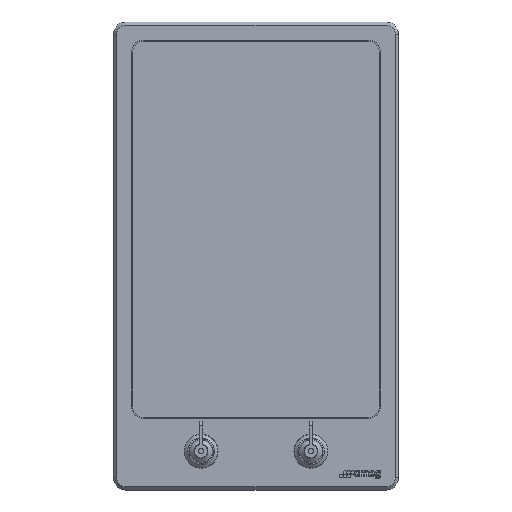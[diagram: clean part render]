
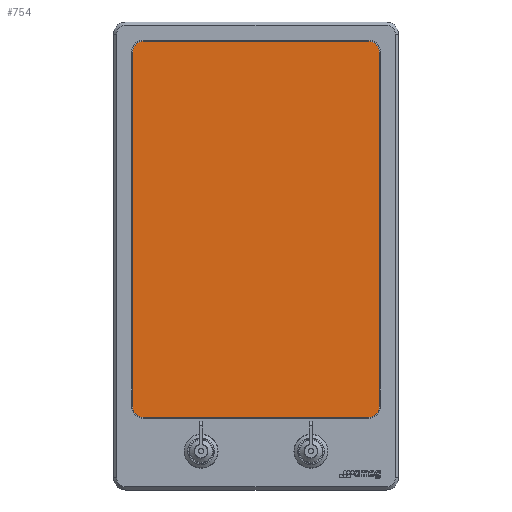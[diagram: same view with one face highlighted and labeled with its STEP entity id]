
A CAD part, top view. The second image highlights one B-rep face of the part: STEP entity #754.
In plain terms, the highlighted planar face has unit normal (0, 0, 1).
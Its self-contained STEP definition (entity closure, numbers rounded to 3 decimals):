
#516=FACE_OUTER_BOUND('',#1308,.T.);
#754=ADVANCED_FACE('',(#516),#883,.T.);
#883=PLANE('',#4309);
#1308=EDGE_LOOP('',(#2467,#2468,#2469,#2470,#2471,#2472,#2473,#2474));
#1479=CIRCLE('',#4293,12.);
#1481=CIRCLE('',#4297,12.);
#1483=CIRCLE('',#4301,12.);
#1485=CIRCLE('',#4305,12.);
#2467=ORIENTED_EDGE('',*,*,#3291,.T.);
#2468=ORIENTED_EDGE('',*,*,#3295,.T.);
#2469=ORIENTED_EDGE('',*,*,#3298,.T.);
#2470=ORIENTED_EDGE('',*,*,#3301,.T.);
#2471=ORIENTED_EDGE('',*,*,#3304,.T.);
#2472=ORIENTED_EDGE('',*,*,#3307,.T.);
#2473=ORIENTED_EDGE('',*,*,#3310,.T.);
#2474=ORIENTED_EDGE('',*,*,#3313,.T.);
#2805=VERTEX_POINT('',#6815);
#2806=VERTEX_POINT('',#6816);
#2809=VERTEX_POINT('',#6824);
#2811=VERTEX_POINT('',#6830);
#2813=VERTEX_POINT('',#6836);
#2815=VERTEX_POINT('',#6842);
#2817=VERTEX_POINT('',#6848);
#2819=VERTEX_POINT('',#6854);
#3291=EDGE_CURVE('',#2805,#2806,#3588,.T.);
#3295=EDGE_CURVE('',#2806,#2809,#1479,.T.);
#3298=EDGE_CURVE('',#2809,#2811,#3593,.T.);
#3301=EDGE_CURVE('',#2811,#2813,#1481,.T.);
#3304=EDGE_CURVE('',#2813,#2815,#3597,.T.);
#3307=EDGE_CURVE('',#2815,#2817,#1483,.T.);
#3310=EDGE_CURVE('',#2817,#2819,#3601,.T.);
#3313=EDGE_CURVE('',#2819,#2805,#1485,.T.);
#3588=LINE('',#6814,#3888);
#3593=LINE('',#6829,#3893);
#3597=LINE('',#6841,#3897);
#3601=LINE('',#6853,#3901);
#3888=VECTOR('',#5370,1.);
#3893=VECTOR('',#5383,1.);
#3897=VECTOR('',#5395,1.);
#3901=VECTOR('',#5407,1.);
#4293=AXIS2_PLACEMENT_3D('',#6823,#5376,#5377);
#4297=AXIS2_PLACEMENT_3D('',#6835,#5388,#5389);
#4301=AXIS2_PLACEMENT_3D('',#6847,#5400,#5401);
#4305=AXIS2_PLACEMENT_3D('',#6859,#5412,#5413);
#4309=AXIS2_PLACEMENT_3D('',#6863,#5420,#5421);
#5370=DIRECTION('',(1.,0.,0.));
#5376=DIRECTION('',(0.,0.,1.));
#5377=DIRECTION('',(1.,0.,0.));
#5383=DIRECTION('',(0.,1.,0.));
#5388=DIRECTION('',(0.,0.,1.));
#5389=DIRECTION('',(1.,0.,0.));
#5395=DIRECTION('',(-1.,0.,0.));
#5400=DIRECTION('',(0.,0.,1.));
#5401=DIRECTION('',(1.,0.,0.));
#5407=DIRECTION('',(0.,-1.,0.));
#5412=DIRECTION('',(0.,0.,1.));
#5413=DIRECTION('',(1.,0.,0.));
#5420=DIRECTION('',(0.,0.,1.));
#5421=DIRECTION('',(1.,0.,0.));
#6814=CARTESIAN_POINT('',(-337.978,558.444,2.));
#6815=CARTESIAN_POINT('',(-337.978,558.444,2.));
#6816=CARTESIAN_POINT('',(-91.978,558.444,2.));
#6823=CARTESIAN_POINT('',(-91.978,570.444,2.));
#6824=CARTESIAN_POINT('',(-79.978,570.444,2.));
#6829=CARTESIAN_POINT('',(-79.978,570.444,2.));
#6830=CARTESIAN_POINT('',(-79.978,957.444,2.));
#6835=CARTESIAN_POINT('',(-91.978,957.444,2.));
#6836=CARTESIAN_POINT('',(-91.978,969.444,2.));
#6841=CARTESIAN_POINT('',(-91.978,969.444,2.));
#6842=CARTESIAN_POINT('',(-337.978,969.444,2.));
#6847=CARTESIAN_POINT('',(-337.978,957.444,2.));
#6848=CARTESIAN_POINT('',(-349.978,957.444,2.));
#6853=CARTESIAN_POINT('',(-349.978,957.444,2.));
#6854=CARTESIAN_POINT('',(-349.978,570.444,2.));
#6859=CARTESIAN_POINT('',(-337.978,570.444,2.));
#6863=CARTESIAN_POINT('',(-91.978,570.444,2.));
